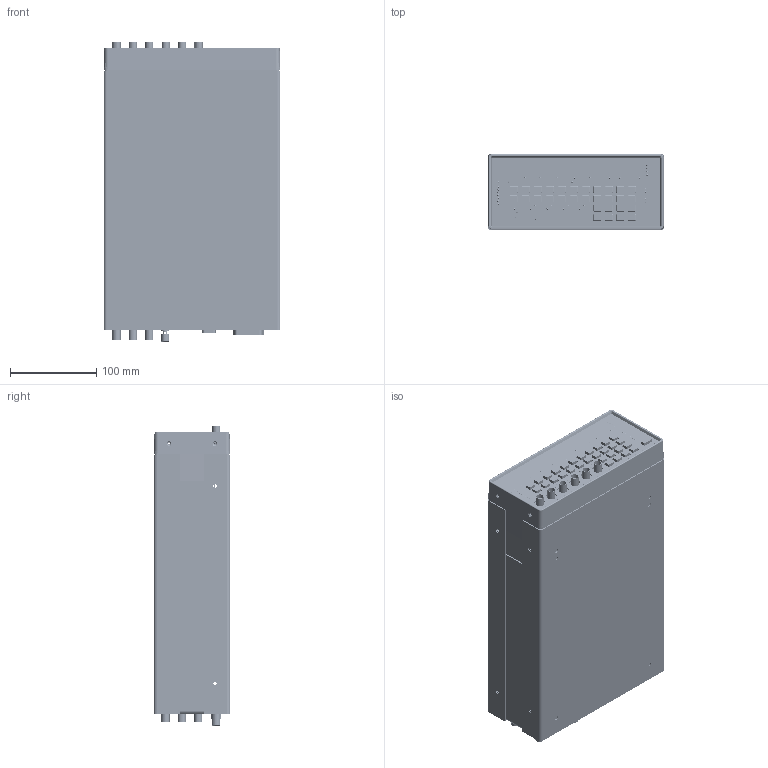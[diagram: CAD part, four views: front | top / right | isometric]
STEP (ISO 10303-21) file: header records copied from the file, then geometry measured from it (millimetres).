
FILE_DESCRIPTION((''),'2;1');
FILE_NAME('ASM_TOP_LEVEL_DG645_ASM','2020-05-15T10:16:28',('gaw'),(''),'CREO PARAMETRIC BY PTC INC, 2019471','CREO PARAMETRIC BY PTC INC, 2019471','');
FILE_SCHEMA(('CONFIG_CONTROL_DESIGN'));
Length unit declared in the file: inch
Products named in the file (61): 7-01879-720_FRAME_FRONT_CHASSIS; CLSS-032-3; CLS-440-3; SOS-440-8; 7-01879-720_FRAME_FRONT_CHASSIS_ASM; 7-01880-720_FRAME_REAR_CHASSIS; F-832-2; CLS-632-3; SOS-6440-4; 7-01880-720_FRAME_REAR_CHASSIS_ASM; 7-00259-720_BOTTOM_SKIN; 7-00260-720_TOP_SKIN; 7-00217-720_BEZEL; GROUND_LUG; 7-01872-701_PCB_FRONT_PANEL; 3-00290-340_7_SEGMENT_DISPLAY; LED_MINIATURE_GREEN; 7-01872-701_PCB_FRONT_PANEL_ASM; 7-01871-701_PCB_MOTHERBOARD; CONNECTOR_ETHERNET_RJ45; CONNECTOR_DB9_RTANGLE_FEMALE; CONNECTOR_HPIB; SWITCH_POWER_DG645; CONNECTOR_BNC_50OHM_MOLEX; CONN_SAMTEC_SLW-118-01-G-D; CONNECTOR_SAMTEC_MBD_PCB_DG645; CONNECTOR_10_POS_STRAIGHT_MALE; CONN_SAMTEC_HTSW-1-20-08-S-D-RA; 7-01871-701_PCB_MOTHERBOARD_ASM; 7-01884-720_ENCLOSURE_PS; TSOS-440-312; TSOS-632-500; SOS_8632-12; CLS-632-0; CLS-440-0; TSOS-440-125; 7-01884-720_ENCLOSURE_PS_ASM; POWER_ENTRY_MODULE_6ESRM-3; 7-01885-720_INSULATOR_PS_CG635; ASM_POWER_SUPPLY_DG645_ASM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
Assembly tree (176 placements, depth 4):
  ASM_TOP_LEVEL_DG645_ASM
    7-01879-720_FRAME_FRONT_CHASSIS_ASM
      7-01879-720_FRAME_FRONT_CHASSIS
      CLSS-032-3  x4
      CLS-440-3  x4
      SOS-440-8  x4
    7-01880-720_FRAME_REAR_CHASSIS_ASM
      7-01880-720_FRAME_REAR_CHASSIS
      F-832-2  x4
      CLS-632-3  x4
      SOS-6440-4  x4
    7-00259-720_BOTTOM_SKIN
    7-00260-720_TOP_SKIN
    7-00217-720_BEZEL
    GROUND_LUG  x2
    7-01872-701_PCB_FRONT_PANEL_ASM
      7-01872-701_PCB_FRONT_PANEL
      3-00290-340_7_SEGMENT_DISPLAY  x19
      LED_MINIATURE_GREEN  x37
    7-01871-701_PCB_MOTHERBOARD_ASM
      7-01871-701_PCB_MOTHERBOARD
      CONNECTOR_ETHERNET_RJ45
      CONNECTOR_DB9_RTANGLE_FEMALE
      CONNECTOR_HPIB
      SWITCH_POWER_DG645
      CONNECTOR_BNC_50OHM_MOLEX  x3
      CONN_SAMTEC_SLW-118-01-G-D
      CONNECTOR_SAMTEC_MBD_PCB_DG645
      CONNECTOR_10_POS_STRAIGHT_MALE
      CONN_SAMTEC_HTSW-1-20-08-S-D-RA
    ASM_POWER_SUPPLY_DG645_ASM
      7-01884-720_ENCLOSURE_PS_ASM
        7-01884-720_ENCLOSURE_PS
        TSOS-440-312  x4
        TSOS-632-500  x4
        SOS_8632-12  x3
        CLS-632-0  x4
        CLS-440-0  x2
        TSOS-440-125
      POWER_ENTRY_MODULE_6ESRM-3
      7-01885-720_INSULATOR_PS_CG635
    7-01878-709_LEXAN_FRONT_PNL_ASM
      7-01878-709_ADHESIVE_FRONT_PNL_AF0
      7-01878-709_LEXAN_FRONT_PNL_AF0
    7-01877-740_RUBBER_KEYPAD_DG645
    7-01881-720_BRKT_OUTPUT_DRIVER
    CONNECTOR_BNC_PNL_MT_50OHM  x6
    WASHER_BNC  x6
    NUT_STANDARD_BNC  x6
    7-01873-701_PCB_OUTPUT_DR_ASM
      7-01873-701_PCB_FRONT_OUTPUT_DR
      CONN_SAMTEC_SSQ-1-20-03-S-D-RA
    7-01883-720_REAR_STRAIN_RELIEF_ASM
      7-01883-720_REAR_STRAIN_RELIEF
      DSOS_440-250  x2
    NUT_50OHM_BNC  x3
    ASM_OPTIONAL_REAR_BNCS_ASM  x3
      7-01882-720_BRKT_REAR_OPTIONAL
      CONNECTOR_BNC_PNL_MT_50OHM
      7-01875-701_PCB_LOW_VOLT_OPTION_ASM
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Bounding box: 205.17 x 88.7 x 347.38 mm (x, y, z)
Volume: 767970.5 mm3; surface area: 1080874.3 mm2
Topology: 191 solids, 281 shells, 8598 faces, 20371 edges, 12998 vertices
Faces by surface type: plane 4001, cylinder 3767, cone 568, torus 172, bspline 90
Entity records: 169590 total; most frequent: DIRECTION 30927, CARTESIAN_POINT 29525, ORIENTED_EDGE 26996, EDGE_CURVE 13559, AXIS2_PLACEMENT_3D 11478, VERTEX_POINT 8634, VECTOR 7971, LINE 7971
